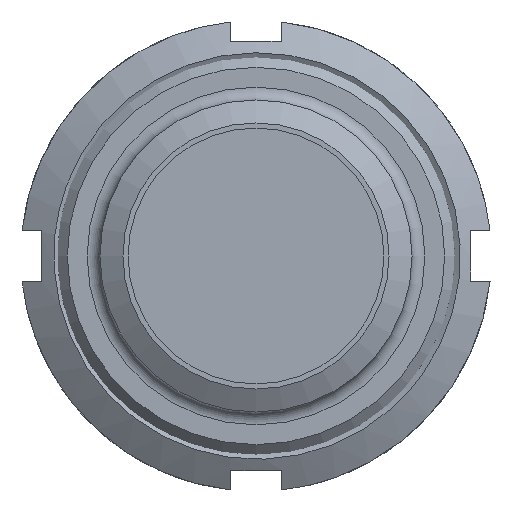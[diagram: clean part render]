
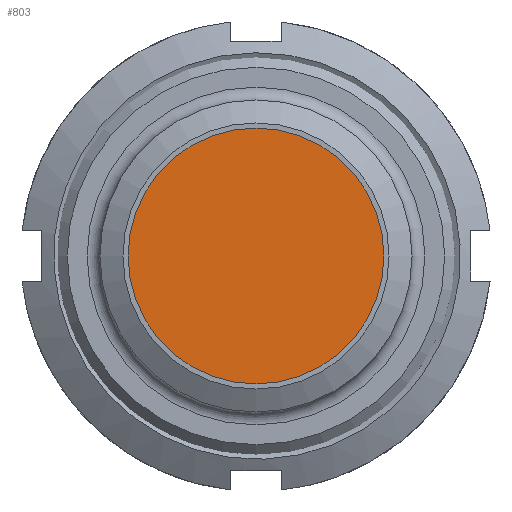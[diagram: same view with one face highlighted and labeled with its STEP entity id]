
A CAD part, left-side view. The second image highlights one B-rep face of the part: STEP entity #803.
In plain terms, the highlighted planar face has unit normal (-1, 0, 0) as drawn and (0, 1, 0) by its records, which use the part's own axes.
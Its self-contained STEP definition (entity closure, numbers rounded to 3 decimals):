
#267=ORIENTED_EDGE('',*,*,#377,.T.);
#377=EDGE_CURVE('',#446,#446,#481,.T.);
#446=VERTEX_POINT('',#3692);
#481=CIRCLE('',#897,30.5);
#548=EDGE_LOOP('',(#267));
#640=FACE_BOUND('',#548,.T.);
#704=PLANE('',#896);
#803=ADVANCED_FACE('',(#640),#704,.T.);
#896=AXIS2_PLACEMENT_3D('',#3690,#1055,#1056);
#897=AXIS2_PLACEMENT_3D('',#3691,#1057,#1058);
#1055=DIRECTION('',(0.,1.,0.));
#1056=DIRECTION('',(0.,0.,1.));
#1057=DIRECTION('',(0.,1.,0.));
#1058=DIRECTION('',(0.,0.,1.));
#3690=CARTESIAN_POINT('',(0.,10.,0.));
#3691=CARTESIAN_POINT('',(0.,10.,0.));
#3692=CARTESIAN_POINT('',(0.,10.,30.5));
